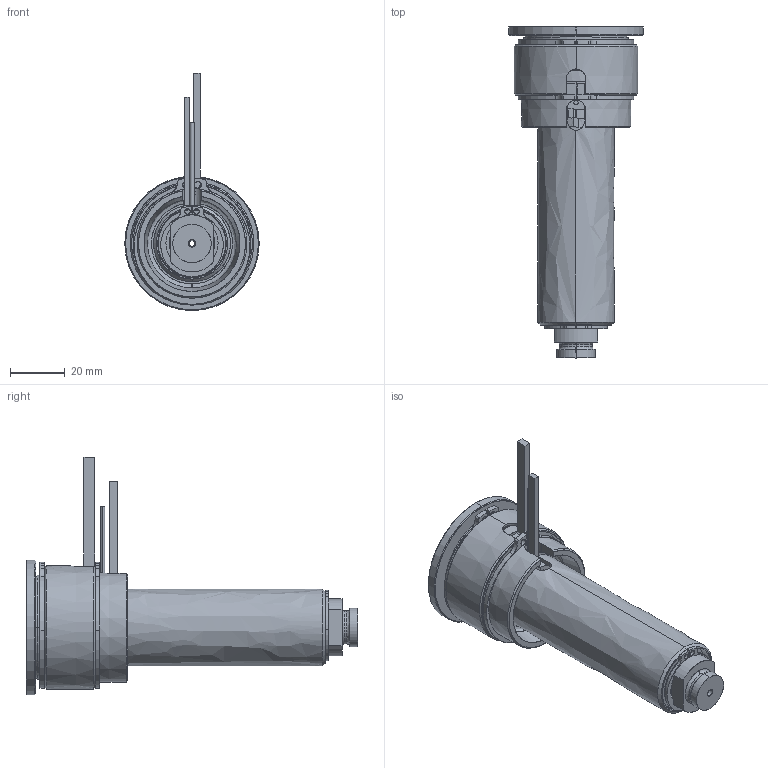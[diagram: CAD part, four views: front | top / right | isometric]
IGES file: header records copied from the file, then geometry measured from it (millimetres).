
Start section: SolidWorks IGES file using analytic representation for surfaces
Global section: file name: C:\Documents and Settings\ws-20\Desktop\TEM\UGBE4502-S-A-3 [Ød-2.0 P-0 ØC-10].IGS; native system: SolidWorks 2012; preprocessor: SolidWorks 2012; author: ws-20; date: 120412.154442; units: millimetre
Bounding box: 49 x 121 x 86.5 mm (x, y, z)
Surface area: 48162.9 mm2 (no closed solid volume)
Topology: 0 solids, 0 shells, 167 faces, 3145 edges, 3145 vertices
Faces by surface type: revolution 106, bspline 61
